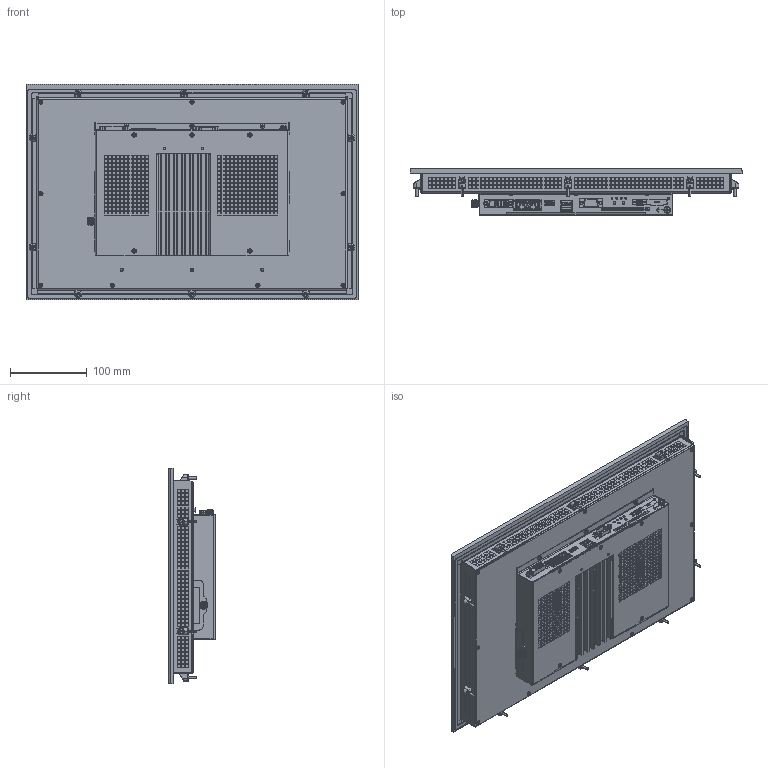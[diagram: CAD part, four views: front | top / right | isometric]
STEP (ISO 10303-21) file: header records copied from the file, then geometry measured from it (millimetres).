
FILE_DESCRIPTION((''),'2;1');
FILE_NAME('C6E22-Panel_156W_CAP_SL','2017-03-07T',('manpal'),(''),'PRO/ENGINEER BY PARAMETRIC TECHNOLOGY CORPORATION, 2013410','PRO/ENGINEER BY PARAMETRIC TECHNOLOGY CORPORATION, 2013410','');
FILE_SCHEMA(('AUTOMOTIVE_DESIGN { 1 0 10303 214 1 1 1 1 }'));
Products named in the file (2): C6E22-Panel_156W_CAP_SL_
Assembly tree (1 placements, depth 2):
  C6E22-Panel_156W_CAP_SL_
    C6E22-Panel_156W_CAP_SL_
Bounding box: 433 x 60.9 x 280.5 mm (x, y, z)
Surface area: 727648 mm2 (no closed solid volume)
Topology: 0 solids, 355 shells, 4440 faces, 19895 edges, 15634 vertices
Faces by surface type: plane 3398, cylinder 649, cone 220, bspline 113, torus 31, sphere 27, extrusion 2
Entity records: 226893 total; most frequent: CARTESIAN_POINT 50858, DIRECTION 30420, ORIENTED_EDGE 28053, EDGE_CURVE 19853, VECTOR 15842, LINE 15840, VERTEX_POINT 15634, AXIS2_PLACEMENT_3D 7289
